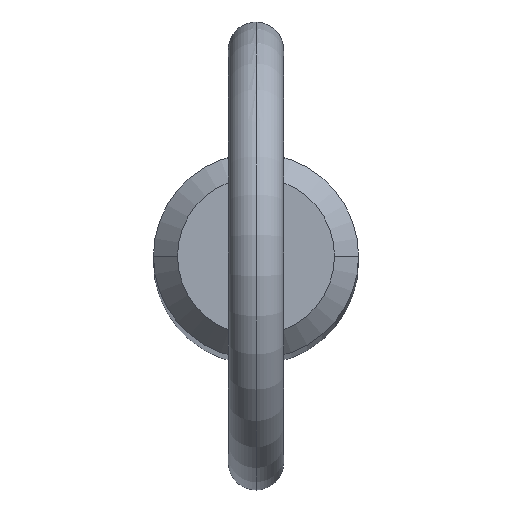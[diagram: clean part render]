
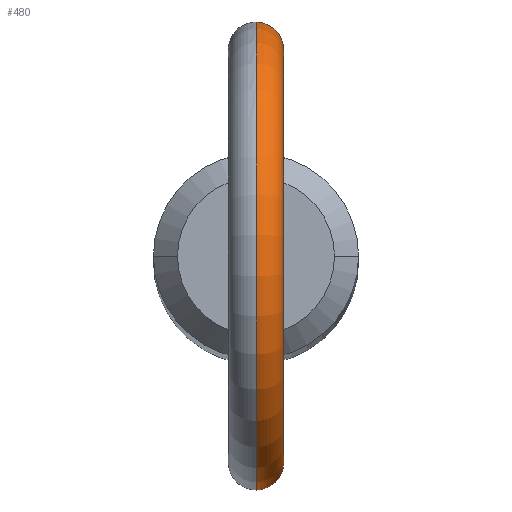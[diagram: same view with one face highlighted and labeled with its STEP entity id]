
A CAD part, top view. The second image highlights one B-rep face of the part: STEP entity #480.
In plain terms, the highlighted toroidal (fillet/blend) face has major radius 11.2 mm and minor radius 1.5 mm.
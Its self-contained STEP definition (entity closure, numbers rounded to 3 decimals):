
#2 = CARTESIAN_POINT ( 'NONE',  ( 0., 5.55, 153.677 ) ) ;
#6 = CARTESIAN_POINT ( 'NONE',  ( 0.716, -5.504, 153.852 ) ) ;
#15 = CIRCLE ( 'NONE', #220, 12.7 ) ;
#18 = CARTESIAN_POINT ( 'NONE',  ( 1.19, 5.421, 154.262 ) ) ;
#33 = DIRECTION ( 'NONE',  ( 1., 0., 0. ) ) ;
#37 = CARTESIAN_POINT ( 'NONE',  ( 0.106, -5.55, 157.145 ) ) ;
#38 = CARTESIAN_POINT ( 'NONE',  ( 1.44, -5.36, 155.786 ) ) ;
#40 = EDGE_LOOP ( 'NONE', ( #132, #459, #380, #274 ) ) ;
#42 = CARTESIAN_POINT ( 'NONE',  ( 1.477, -5.35, 154.944 ) ) ;
#47 = CARTESIAN_POINT ( 'NONE',  ( 0.419, 5.535, 153.732 ) ) ;
#68 = DIRECTION ( 'NONE',  ( 0., 0., -1. ) ) ;
#70 = CARTESIAN_POINT ( 'NONE',  ( 0.421, -5.535, 153.732 ) ) ;
#72 = CARTESIAN_POINT ( 'NONE',  ( 0.107, -5.55, 153.677 ) ) ;
#81 = CARTESIAN_POINT ( 'NONE',  ( 0., 5.55, 153.677 ) ) ;
#82 = CARTESIAN_POINT ( 'NONE',  ( 1.251, 5.407, 154.35 ) ) ;
#88 = CARTESIAN_POINT ( 'NONE',  ( 1.44, 5.36, 155.788 ) ) ;
#90 = CARTESIAN_POINT ( 'NONE',  ( 1.194, 5.422, 156.372 ) ) ;
#93 = CARTESIAN_POINT ( 'NONE',  ( 0., 5.55, 157.145 ) ) ;
#103 = DIRECTION ( 'NONE',  ( 0., 0., -1. ) ) ;
#112 = CARTESIAN_POINT ( 'NONE',  ( 0.515, -5.527, 157.022 ) ) ;
#122 = VERTEX_POINT ( 'NONE', #280 ) ;
#123 = EDGE_CURVE ( 'NONE', #355, #122, #201, .T. ) ;
#126 = CARTESIAN_POINT ( 'NONE',  ( 1.352, 5.383, 154.535 ) ) ;
#130 = CARTESIAN_POINT ( 'NONE',  ( 0.422, 5.537, 157.078 ) ) ;
#132 = ORIENTED_EDGE ( 'NONE', *, *, #123, .F. ) ;
#149 = DIRECTION ( 'NONE',  ( 1., 0., 0. ) ) ;
#152 = CARTESIAN_POINT ( 'NONE',  ( 0.214, -5.547, 157.128 ) ) ;
#156 = CARTESIAN_POINT ( 'NONE',  ( 0., -5.55, 157.145 ) ) ;
#158 = CARTESIAN_POINT ( 'NONE',  ( 1.486, -5.347, 155.574 ) ) ;
#171 = CARTESIAN_POINT ( 'NONE',  ( 0.81, 5.494, 153.895 ) ) ;
#172 = CARTESIAN_POINT ( 'NONE',  ( 1.486, 5.348, 154.938 ) ) ;
#198 = CARTESIAN_POINT ( 'NONE',  ( 0., -5.55, 153.677 ) ) ;
#201 = B_SPLINE_CURVE_WITH_KNOTS ( 'NONE', 3,
 ( #81, #250, #305, #47, #300, #171, #335, #18, #82, #126, #425, #172, #512, #253, #88, #262, #90, #392, #269, #394, #478, #130, #345, #93 ),
 .UNSPECIFIED., .F., .F.,
 ( 4, 2, 2, 2, 2, 2, 2, 2, 2, 2, 2, 4 ),
 ( 0.001, 0.001, 0.001, 0.002, 0.002, 0.002, 0.003, 0.004, 0.004, 0.005, 0.005, 0.006 ),
 .UNSPECIFIED. ) ;
#206 = CARTESIAN_POINT ( 'NONE',  ( 1.055, -5.449, 154.105 ) ) ;
#220 = AXIS2_PLACEMENT_3D ( 'NONE', #357, #149, #68 ) ;
#229 = CARTESIAN_POINT ( 'NONE',  ( 0., -5.55, 157.145 ) ) ;
#239 = CARTESIAN_POINT ( 'NONE',  ( 1.363, -5.38, 154.534 ) ) ;
#240 = B_SPLINE_CURVE_WITH_KNOTS ( 'NONE', 3,
 ( #156, #37, #152, #461, #112, #455, #376, #374, #288, #38, #158, #326, #460, #42, #377, #239, #498, #206, #418, #241, #6, #415, #70, #500, #72, #198 ),
 .UNSPECIFIED., .F., .F.,
 ( 4, 2, 2, 2, 2, 2, 2, 2, 2, 2, 2, 2, 4 ),
 ( 0.005, 0.005, 0.005, 0.006, 0.006, 0.007, 0.007, 0.008, 0.008, 0.009, 0.009, 0.009, 0.01 ),
 .UNSPECIFIED. ) ;
#241 = CARTESIAN_POINT ( 'NONE',  ( 0.807, -5.492, 153.906 ) ) ;
#250 = CARTESIAN_POINT ( 'NONE',  ( 0.107, 5.55, 153.677 ) ) ;
#253 = CARTESIAN_POINT ( 'NONE',  ( 1.485, 5.348, 155.578 ) ) ;
#262 = CARTESIAN_POINT ( 'NONE',  ( 1.294, 5.398, 156.185 ) ) ;
#269 = CARTESIAN_POINT ( 'NONE',  ( 0.933, 5.472, 156.704 ) ) ;
#274 = ORIENTED_EDGE ( 'NONE', *, *, #493, .F. ) ;
#276 = CARTESIAN_POINT ( 'NONE',  ( 0., 0., 165.1 ) ) ;
#280 = CARTESIAN_POINT ( 'NONE',  ( 0., 5.55, 157.145 ) ) ;
#286 = CARTESIAN_POINT ( 'NONE',  ( 0., 0., 165.1 ) ) ;
#288 = CARTESIAN_POINT ( 'NONE',  ( 1.295, -5.397, 156.182 ) ) ;
#290 = DIRECTION ( 'NONE',  ( 0., 0., -1. ) ) ;
#300 = CARTESIAN_POINT ( 'NONE',  ( 0.522, 5.526, 153.765 ) ) ;
#305 = CARTESIAN_POINT ( 'NONE',  ( 0.212, 5.547, 153.688 ) ) ;
#317 = CARTESIAN_POINT ( 'NONE',  ( 0., -5.55, 153.677 ) ) ;
#326 = CARTESIAN_POINT ( 'NONE',  ( 1.503, -5.343, 155.259 ) ) ;
#335 = CARTESIAN_POINT ( 'NONE',  ( 0.984, 5.464, 154.024 ) ) ;
#339 = TOROIDAL_SURFACE ( 'NONE', #395, 11.2, 1.5 ) ;
#345 = CARTESIAN_POINT ( 'NONE',  ( 0.213, 5.55, 157.145 ) ) ;
#355 = VERTEX_POINT ( 'NONE', #2 ) ;
#357 = CARTESIAN_POINT ( 'NONE',  ( 0., 0., 165.1 ) ) ;
#363 = VERTEX_POINT ( 'NONE', #229 ) ;
#374 = CARTESIAN_POINT ( 'NONE',  ( 1.194, -5.422, 156.371 ) ) ;
#376 = CARTESIAN_POINT ( 'NONE',  ( 0.941, -5.471, 156.707 ) ) ;
#377 = CARTESIAN_POINT ( 'NONE',  ( 1.455, -5.356, 154.838 ) ) ;
#380 = ORIENTED_EDGE ( 'NONE', *, *, #525, .F. ) ;
#387 = FACE_OUTER_BOUND ( 'NONE', #40, .T. ) ;
#392 = CARTESIAN_POINT ( 'NONE',  ( 1.003, 5.459, 156.625 ) ) ;
#394 = CARTESIAN_POINT ( 'NONE',  ( 0.779, 5.496, 156.848 ) ) ;
#395 = AXIS2_PLACEMENT_3D ( 'NONE', #276, #33, #103 ) ;
#413 = DIRECTION ( 'NONE',  ( 1., 0., 0. ) ) ;
#415 = CARTESIAN_POINT ( 'NONE',  ( 0.523, -5.526, 153.766 ) ) ;
#418 = CARTESIAN_POINT ( 'NONE',  ( 0.977, -5.464, 154.032 ) ) ;
#425 = CARTESIAN_POINT ( 'NONE',  ( 1.393, 5.372, 154.633 ) ) ;
#429 = CIRCLE ( 'NONE', #441, 9.7 ) ;
#441 = AXIS2_PLACEMENT_3D ( 'NONE', #286, #413, #290 ) ;
#444 = EDGE_CURVE ( 'NONE', #355, #467, #15, .T. ) ;
#455 = CARTESIAN_POINT ( 'NONE',  ( 0.786, -5.497, 156.857 ) ) ;
#459 = ORIENTED_EDGE ( 'NONE', *, *, #444, .T. ) ;
#460 = CARTESIAN_POINT ( 'NONE',  ( 1.5, -5.343, 155.154 ) ) ;
#461 = CARTESIAN_POINT ( 'NONE',  ( 0.417, -5.535, 157.067 ) ) ;
#467 = VERTEX_POINT ( 'NONE', #317 ) ;
#478 = CARTESIAN_POINT ( 'NONE',  ( 0.694, 5.507, 156.914 ) ) ;
#480 = ADVANCED_FACE ( 'NONE', ( #387 ), #339, .T. ) ;
#493 = EDGE_CURVE ( 'NONE', #122, #363, #429, .T. ) ;
#498 = CARTESIAN_POINT ( 'NONE',  ( 1.26, -5.407, 154.343 ) ) ;
#500 = CARTESIAN_POINT ( 'NONE',  ( 0.213, -5.547, 153.688 ) ) ;
#512 = CARTESIAN_POINT ( 'NONE',  ( 1.509, 5.341, 155.153 ) ) ;
#525 = EDGE_CURVE ( 'NONE', #363, #467, #240, .T. ) ;
